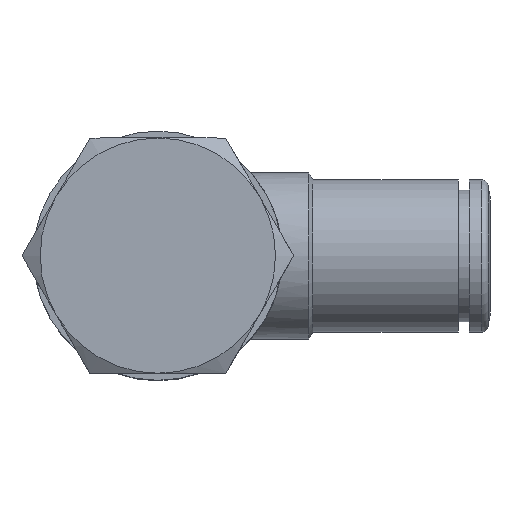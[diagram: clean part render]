
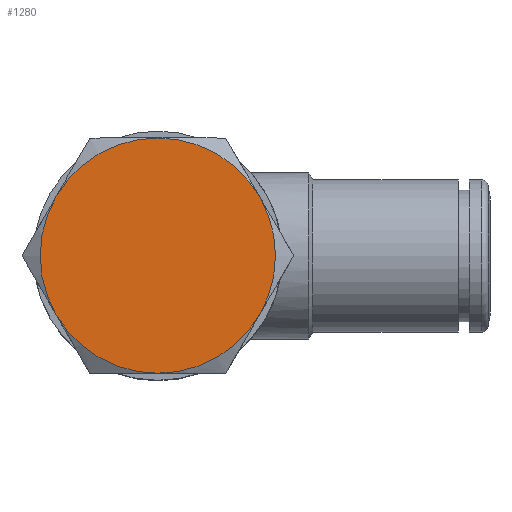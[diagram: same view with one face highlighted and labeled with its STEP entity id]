
A CAD part, top view. The second image highlights one B-rep face of the part: STEP entity #1280.
In plain terms, the highlighted planar face has unit normal (0, 0, 1).
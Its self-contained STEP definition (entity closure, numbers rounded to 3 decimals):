
#1280=ADVANCED_FACE('', (#1290), #1300, .T.);
#5840=AXIS2_PLACEMENT_3D('Ax2Pl3d', #5850, #5860, #5870);
#5920=AXIS2_PLACEMENT_3D('Ax2Pl3d', #5930, #5940, #5950);
#6000=AXIS2_PLACEMENT_3D('Ax2Pl3d', #6010, #6020, #6030);
#6080=AXIS2_PLACEMENT_3D('Ax2Pl3d', #6090, #6100, #6110);
#6160=AXIS2_PLACEMENT_3D('Ax2Pl3d', #6170, #6180, #6190);
#6240=AXIS2_PLACEMENT_3D('Ax2Pl3d', #6250, #6260, #6270);
#6280=AXIS2_PLACEMENT_3D('Ax2Pl3d', #6290, #6300, #6310);
#45310=CARTESIAN_POINT('', (13.926,18.379,33.676));
#45440=CARTESIAN_POINT('', (21.287,22.629,33.676));
#45450=CARTESIAN_POINT('', (13.926,9.879,33.676));
#45530=CARTESIAN_POINT('', (21.287,5.629,33.676));
#45600=CARTESIAN_POINT('', (28.648,18.379,33.676));
#45610=CARTESIAN_POINT('', (28.648,9.879,33.676));
#5850=CARTESIAN_POINT('HicPkt', (21.287,14.129,
33.676));
#5930=CARTESIAN_POINT('HicPkt', (21.287,14.129,
33.676));
#6010=CARTESIAN_POINT('HicPkt', (21.287,14.129,
33.676));
#6090=CARTESIAN_POINT('HicPkt', (21.287,14.129,
33.676));
#6170=CARTESIAN_POINT('HicPkt', (21.287,14.129,
33.676));
#6250=CARTESIAN_POINT('HicPkt', (21.287,14.129,
33.676));
#6290=CARTESIAN_POINT('HicPkt', (28.648,9.879,
33.676));
#46650=CIRCLE('Circle', #5840, 8.5);
#46660=CIRCLE('Circle', #5920, 8.5);
#46670=CIRCLE('Circle', #6000, 8.5);
#46680=CIRCLE('Circle', #6080, 8.5);
#46690=CIRCLE('Circle', #6160, 8.5);
#46700=CIRCLE('Circle', #6240, 8.5);
#5860=DIRECTION('Axis', (0.,0.,-1.));
#5870=DIRECTION('RefDirection', (-1.,-0.,0.));
#5940=DIRECTION('Axis', (0.,0.,-1.));
#5950=DIRECTION('RefDirection', (-1.,-0.,0.));
#6020=DIRECTION('Axis', (0.,0.,-1.));
#6030=DIRECTION('RefDirection', (-1.,-0.,0.));
#6100=DIRECTION('Axis', (0.,0.,-1.));
#6110=DIRECTION('RefDirection', (-1.,-0.,0.));
#6180=DIRECTION('Axis', (0.,0.,-1.));
#6190=DIRECTION('RefDirection', (-1.,-0.,0.));
#6260=DIRECTION('Axis', (0.,0.,-1.));
#6270=DIRECTION('RefDirection', (-1.,-0.,0.));
#6300=DIRECTION('Axis', (-0.,0.,1.));
#6310=DIRECTION('RefDirection', (-1.,0.,-0.));
#53130=EDGE_CURVE('', #52740, #52460, #46650, .T.);
#53140=EDGE_CURVE('', #52460, #52710, #46660, .T.);
#53150=EDGE_CURVE('', #52710, #53080, #46670, .T.);
#53160=EDGE_CURVE('', #53080, #53110, #46680, .T.);
#53170=EDGE_CURVE('', #53110, #52890, #46690, .T.);
#53180=EDGE_CURVE('', #52890, #52740, #46700, .T.);
#56460=EDGE_LOOP('Edge_loop', (#56470,#56480,#56490,#56500,#56510,
#56520));
#1290=FACE_OUTER_BOUND('Face_outer_bound', #56460, .T.);
#56470=ORIENTED_EDGE('', *, *, #53170, .F.);
#56480=ORIENTED_EDGE('', *, *, #53160, .F.);
#56490=ORIENTED_EDGE('', *, *, #53150, .F.);
#56500=ORIENTED_EDGE('', *, *, #53140, .F.);
#56510=ORIENTED_EDGE('', *, *, #53130, .F.);
#56520=ORIENTED_EDGE('', *, *, #53180, .F.);
#1300=PLANE('Plane', #6280);
#52460=VERTEX_POINT('', #45310);
#52710=VERTEX_POINT('', #45440);
#52740=VERTEX_POINT('', #45450);
#52890=VERTEX_POINT('', #45530);
#53080=VERTEX_POINT('', #45600);
#53110=VERTEX_POINT('', #45610);
